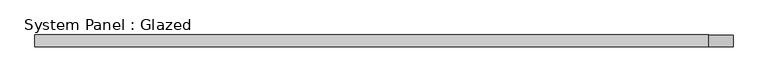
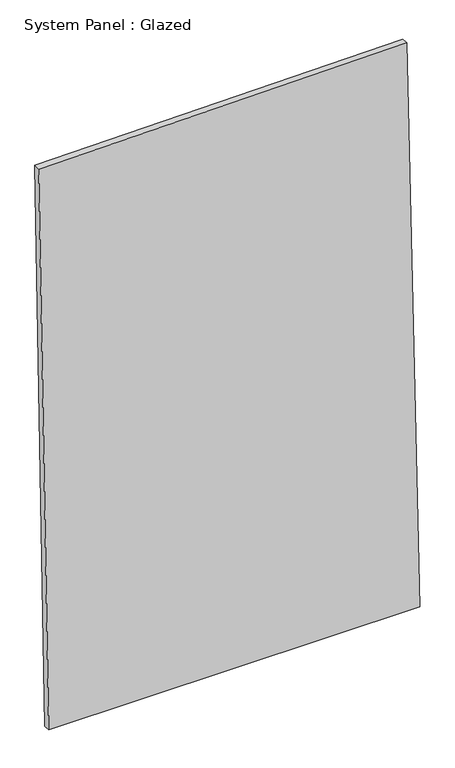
"""IFC4 building model written with IfcOpenShell, lengths in millimetres: plate geometry, System Panel : Glazed."""

from ifc_helpers import new_model, si_unit, frame, origin, place, context, project, spatial, polyline, outline, extrude, source, transform, mapped, element, save


def system_panel_glazed_34c2af45(model_context):
    return source(origin(), model_context, "Body", "SweptSolid", [
        extrude(outline(polyline([(0.0, -707.0222788), (0.0, 746.2425941), (2351.4207399, 694.4486492), (2333.7104711, -746.2425941), (0.0, -707.0222788)])), frame((0.0, -49.5, 0.0), z_axis=(0.0, 1.0, 0.0), x_axis=(0.0, 0.0, 1.0)), (0.0, 0.0, 1.0), 25.0),
    ])


if __name__ == "__main__":
    model = new_model("IFC4")
    model_context = context("Model", 3, world=origin())
    ifc_project = project(units=[si_unit("LENGTHUNIT", "METRE", prefix="MILLI")], contexts=[model_context])
    site = spatial("IfcSite", under=ifc_project)
    building = spatial("IfcBuilding", under=site)
    placement = place(None, origin())
    system_panel_glazed_shape = system_panel_glazed_34c2af45(model_context)
    element("IfcPlate", 1, ObjectType="System Panel : Glazed", at=placement, inside=building, context=model_context, shape_type="MappedRepresentation", body=[
        mapped(system_panel_glazed_shape, transform((0.0, 0.0, 0.0), x_axis=(1.0, 0.0, 0.0), y_axis=(0.0, 1.0, 0.0), z_axis=(0.0, 0.0, 1.0))),
    ])
    save(model, "model.ifc")
